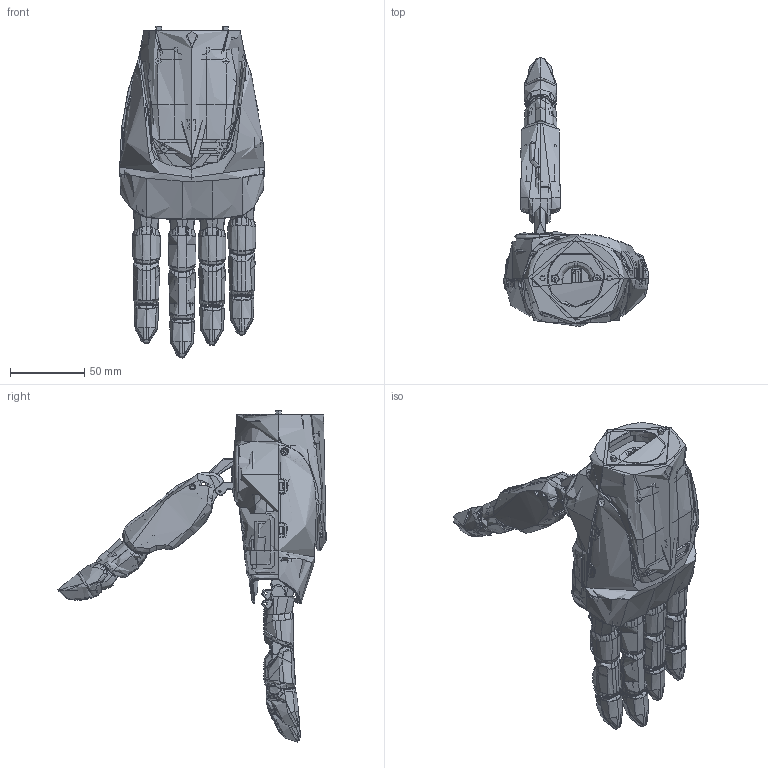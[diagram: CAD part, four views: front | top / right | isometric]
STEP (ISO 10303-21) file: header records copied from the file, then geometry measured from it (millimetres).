
FILE_DESCRIPTION (( 'STEP AP203' ), '1' );
FILE_NAME ('噩砃o12_t3_00_asm-waike(2)^o12_t3_00_asm-waike.STEP', '2025-12-01T08:17:52', ( '' ), ( '' ), 'SwSTEP 2.0', 'SolidWorks 2022', '' );
FILE_SCHEMA (( 'CONFIG_CONTROL_DESIGN' ));
Length unit declared in the file: millimetre
Products named in the file (54): 镜向O12-T3_0-17--0001^镜向_AF2000_ASM_镜向V30001_ASM_镜向o12_t3_00_asm-waike(2)_o12_t3_00_asm-waike; 镜向072300_ASM_4_1_ASM^镜向T30801_AF4_ASM_镜向_AF000_ASM_镜向o12_t3_00_asm-waike(2)_o12_t3_00_asm-waike; 镜向072300_ASM_4_1_ASM^镜向T30801_AF3_ASM_镜向_AF10001_ASM_镜向o12_t3_00_asm-waike(2)_o12_t3_00_asm-waike; 镜向O12-T3_0-03--0002^镜向_AF2000_ASM_镜向V30001_ASM_镜向o12_t3_00_asm-waike(2)_o12_t3_00_asm-waike; 镜向O12-T3_0-7-10001^镜向_AF10001_ASM_镜向o12_t3_00_asm-waike(2)_o12_t3_00_asm-waike; 镜向T30001^镜向072300_ASM_4_1_ASM_镜向T30801_AF3_ASM_镜向_AF10001_ASM_镜向o12_t3_00_asm-waike(2)_o12_t3_00_asm-waike; 镜向T308010001_ASM^镜向_AF2000_ASM_镜向V30001_ASM_镜向o12_t3_00_asm-waike(2)_o12_t3_00_asm-waike; 镜向O12-T3_0-12-_R_V40001^镜向T30003_ASM_镜向o12_t3_00_asm-waike(2)_o12_t3_00_asm-waike; 镜向o12_t3_00_asm-waike(2)^o12_t3_00_asm-waike; 镜向O12-T3_0-35--V20001^镜向_AF000_ASM_镜向o12_t3_00_asm-waike(2)_o12_t3_00_asm-waike; 镜向PCB0001^镜向o12_t3_00_asm-waike(2)_o12_t3_00_asm-waike; 镜向O12-T3_0-35--V20001^镜向_AF00002_ASM_镜向o12_t3_00_asm-waike(2)_o12_t3_00_asm-waike; 镜向O12-T3_0-45--V20001^镜向V20001_ASM_镜向o12_t3_00_asm-waike(2)_o12_t3_00_asm-waike; 镜向072300_ASM_4_ASM^镜向T308010001_ASM_镜向_AF2000_ASM_镜向V30001_ASM_镜向o12_t3_00_asm-waike(2)_o12_t3_00_asm-waike; 镜向O12-T3_0-01-0002^镜向V30001_ASM_镜向o12_t3_00_asm-waike(2)_o12_t3_00_asm-waike; 镜向T30801_AF3_ASM^镜向_AF10001_ASM_镜向o12_t3_00_asm-waike(2)_o12_t3_00_asm-waike; 镜向_AF10001_ASM^镜向o12_t3_00_asm-waike(2)_o12_t3_00_asm-waike; 镜向O12-T3_0-47-0001^镜向V20001_ASM_镜向o12_t3_00_asm-waike(2)_o12_t3_00_asm-waike; 镜向O12-T3_0-7-10001^镜向_AF000_ASM_镜向o12_t3_00_asm-waike(2)_o12_t3_00_asm-waike; 镜向O12-T3_0-8-20001^镜向_AF000_ASM_镜向o12_t3_00_asm-waike(2)_o12_t3_00_asm-waike; 镜向O12-T3_0-7-10001^镜向_AF00002_ASM_镜向o12_t3_00_asm-waike(2)_o12_t3_00_asm-waike; 镜向O12-T3_0-8-20001^镜向_AF00002_ASM_镜向o12_t3_00_asm-waike(2)_o12_t3_00_asm-waike; 镜向T30003_ASM^镜向o12_t3_00_asm-waike(2)_o12_t3_00_asm-waike; 镜向O12-T3_0-8-20001^镜向_AF10001_ASM_镜向o12_t3_00_asm-waike(2)_o12_t3_00_asm-waike; 镜向T30001^镜向072300_ASM_4_1_ASM_镜向T30801_AF4_ASM_镜向_AF000_ASM_镜向o12_t3_00_asm-waike(2)_o12_t3_00_asm-waike; 镜向O12-T3_0-03--0001^镜向_AF2000_ASM_镜向V30001_ASM_镜向o12_t3_00_asm-waike(2)_o12_t3_00_asm-waike; 镜向T30001^镜向072300_ASM_4_1_ASM_镜向T30801_AF2_ASM_镜向_AF00002_ASM_镜向o12_t3_00_asm-waike(2)_o12_t3_00_asm-waike; 镜向O12-T3_0-34--V20001^镜向_AF000_ASM_镜向o12_t3_00_asm-waike(2)_o12_t3_00_asm-waike; 镜向O12-T3_0-46--V20001^镜向V20001_ASM_镜向o12_t3_00_asm-waike(2)_o12_t3_00_asm-waike; 镜向V30001_ASM^镜向o12_t3_00_asm-waike(2)_o12_t3_00_asm-waike; 镜向O12-T3_0-11-V20001^镜向072300_ASM_4_ASM_镜向T308010001_ASM_镜向_AF2000_ASM_镜向V30001_ASM_镜向o12_t3_00_asm-waike(2)_o12_t3_00_asm-waike; 镜向_AF000_ASM^镜向o12_t3_00_asm-waike(2)_o12_t3_00_asm-waike; 镜向T3V20001_ASM^镜向V20001_ASM_镜向o12_t3_00_asm-waike(2)_o12_t3_00_asm-waike; 镜向V20001_ASM^镜向o12_t3_00_asm-waike(2)_o12_t3_00_asm-waike; 镜向O12-T3_0-34--V20001^镜向_AF00002_ASM_镜向o12_t3_00_asm-waike(2)_o12_t3_00_asm-waike; 镜向O12-T3_0-62-V20001^镜向o12_t3_00_asm-waike(2)_o12_t3_00_asm-waike; 镜向O12-T3_0-04-V20002^镜向T30003_ASM_镜向o12_t3_00_asm-waike(2)_o12_t3_00_asm-waike; 镜向_AF00002_ASM^镜向o12_t3_00_asm-waike(2)_o12_t3_00_asm-waike; 镜向T30002^镜向072300_ASM_4_ASM_镜向T308010001_ASM_镜向_AF2000_ASM_镜向V30001_ASM_镜向o12_t3_00_asm-waike(2)_o12_t3_00_asm-waike; 镜向T30801_AF2_ASM^镜向_AF00002_ASM_镜向o12_t3_00_asm-waike(2)_o12_t3_00_asm-waike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
Assembly tree (53 placements, depth 6):
  镜向o12_t3_00_asm-waike(2)^o12_t3_00_asm-waike
    镜向V20001_ASM^镜向o12_t3_00_asm-waike(2)_o12_t3_00_asm-waike
      镜向T3V20001_ASM^镜向V20001_ASM_镜向o12_t3_00_asm-waike(2)_o12_t3_00_asm-waike
        镜向T30001^镜向T3V20001_ASM_镜向V20001_ASM_镜向o12_t3_00_asm-waike(2)_o12_t3_00_asm-waike
      镜向O12-T3_0-46--V20001^镜向V20001_ASM_镜向o12_t3_00_asm-waike(2)_o12_t3_00_asm-waike
      镜向O12-T3_0-47-0001^镜向V20001_ASM_镜向o12_t3_00_asm-waike(2)_o12_t3_00_asm-waike
      镜向O12-T3_0-45--V20001^镜向V20001_ASM_镜向o12_t3_00_asm-waike(2)_o12_t3_00_asm-waike
      镜向O12-T3_0-9-10001^镜向V20001_ASM_镜向o12_t3_00_asm-waike(2)_o12_t3_00_asm-waike
      镜向O12-T3_0-10-20001^镜向V20001_ASM_镜向o12_t3_00_asm-waike(2)_o12_t3_00_asm-waike
    镜向V30001_ASM^镜向o12_t3_00_asm-waike(2)_o12_t3_00_asm-waike
      镜向_AF2000_ASM^镜向V30001_ASM_镜向o12_t3_00_asm-waike(2)_o12_t3_00_asm-waike
        镜向T308010001_ASM^镜向_AF2000_ASM_镜向V30001_ASM_镜向o12_t3_00_asm-waike(2)_o12_t3_00_asm-waike
          镜向072300_ASM_4_ASM^镜向T308010001_ASM_镜向_AF2000_ASM_镜向V30001_ASM_镜向o12_t3_00_asm-waike(2)_o12_t3_00_asm-waike
            镜向T30002^镜向072300_ASM_4_ASM_镜向T308010001_ASM_镜向_AF2000_ASM_镜向V30001_ASM_镜向o12_t3_00_asm-waike(2)_o12_t3_00_asm-waike
            镜向O12-T3_0-11-V20001^镜向072300_ASM_4_ASM_镜向T308010001_ASM_镜向_AF2000_ASM_镜向V30001_ASM_镜向o12_t3_00_asm-waike(2)_o12_t3_00_asm-waike
        镜向O12-T3_0-03--0001^镜向_AF2000_ASM_镜向V30001_ASM_镜向o12_t3_00_asm-waike(2)_o12_t3_00_asm-waike
        镜向O12-T3_0-03--0002^镜向_AF2000_ASM_镜向V30001_ASM_镜向o12_t3_00_asm-waike(2)_o12_t3_00_asm-waike
        镜向O12-T3_0-14--0001^镜向_AF2000_ASM_镜向V30001_ASM_镜向o12_t3_00_asm-waike(2)_o12_t3_00_asm-waike
        镜向O12-T3_0-17--0001^镜向_AF2000_ASM_镜向V30001_ASM_镜向o12_t3_00_asm-waike(2)_o12_t3_00_asm-waike
        镜向O12-T3_0-17-0001^镜向_AF2000_ASM_镜向V30001_ASM_镜向o12_t3_00_asm-waike(2)_o12_t3_00_asm-waike
      镜向O12-T3_0-12-V3000^镜向V30001_ASM_镜向o12_t3_00_asm-waike(2)_o12_t3_00_asm-waike
      镜向O12-T3_0-01-0002^镜向V30001_ASM_镜向o12_t3_00_asm-waike(2)_o12_t3_00_asm-waike
    镜向_AF000_ASM^镜向o12_t3_00_asm-waike(2)_o12_t3_00_asm-waike
      镜向T30801_AF4_ASM^镜向_AF000_ASM_镜向o12_t3_00_asm-waike(2)_o12_t3_00_asm-waike
        镜向072300_ASM_4_1_ASM^镜向T30801_AF4_ASM_镜向_AF000_ASM_镜向o12_t3_00_asm-waike(2)_o12_t3_00_asm-waike
          镜向T30001^镜向072300_ASM_4_1_ASM_镜向T30801_AF4_ASM_镜向_AF000_ASM_镜向o12_t3_00_asm-waike(2)_o12_t3_00_asm-waike
      镜向O12-T3_0-35--V20001^镜向_AF000_ASM_镜向o12_t3_00_asm-waike(2)_o12_t3_00_asm-waike
      镜向O12-T3_0-34--V20001^镜向_AF000_ASM_镜向o12_t3_00_asm-waike(2)_o12_t3_00_asm-waike
      镜向O12-T3_0-7-10001^镜向_AF000_ASM_镜向o12_t3_00_asm-waike(2)_o12_t3_00_asm-waike
      镜向O12-T3_0-8-20001^镜向_AF000_ASM_镜向o12_t3_00_asm-waike(2)_o12_t3_00_asm-waike
    镜向_AF00002_ASM^镜向o12_t3_00_asm-waike(2)_o12_t3_00_asm-waike
      镜向T30801_AF2_ASM^镜向_AF00002_ASM_镜向o12_t3_00_asm-waike(2)_o12_t3_00_asm-waike
        镜向072300_ASM_4_1_ASM^镜向T30801_AF2_ASM_镜向_AF00002_ASM_镜向o12_t3_00_asm-waike(2)_o12_t3_00_asm-waike
          镜向T30001^镜向072300_ASM_4_1_ASM_镜向T30801_AF2_ASM_镜向_AF00002_ASM_镜向o12_t3_00_asm-waike(2)_o12_t3_00_asm-waike
      镜向O12-T3_0-35--V20001^镜向_AF00002_ASM_镜向o12_t3_00_asm-waike(2)_o12_t3_00_asm-waike
      镜向O12-T3_0-34--V20001^镜向_AF00002_ASM_镜向o12_t3_00_asm-waike(2)_o12_t3_00_asm-waike
      镜向O12-T3_0-7-10001^镜向_AF00002_ASM_镜向o12_t3_00_asm-waike(2)_o12_t3_00_asm-waike
      镜向O12-T3_0-8-20001^镜向_AF00002_ASM_镜向o12_t3_00_asm-waike(2)_o12_t3_00_asm-waike
    镜向_AF10001_ASM^镜向o12_t3_00_asm-waike(2)_o12_t3_00_asm-waike
      镜向T30801_AF3_ASM^镜向_AF10001_ASM_镜向o12_t3_00_asm-waike(2)_o12_t3_00_asm-waike
        镜向072300_ASM_4_1_ASM^镜向T30801_AF3_ASM_镜向_AF10001_ASM_镜向o12_t3_00_asm-waike(2)_o12_t3_00_asm-waike
          镜向T30001^镜向072300_ASM_4_1_ASM_镜向T30801_AF3_ASM_镜向_AF10001_ASM_镜向o12_t3_00_asm-waike(2)_o12_t3_00_asm-waike
      镜向O12-T3_0-35--V20001^镜向_AF10001_ASM_镜向o12_t3_00_asm-waike(2)_o12_t3_00_asm-waike
      镜向O12-T3_0-34--V20001^镜向_AF10001_ASM_镜向o12_t3_00_asm-waike(2)_o12_t3_00_asm-waike
      镜向O12-T3_0-7-10001^镜向_AF10001_ASM_镜向o12_t3_00_asm-waike(2)_o12_t3_00_asm-waike
      镜向O12-T3_0-8-20001^镜向_AF10001_ASM_镜向o12_t3_00_asm-waike(2)_o12_t3_00_asm-waike
    镜向T30003_ASM^镜向o12_t3_00_asm-waike(2)_o12_t3_00_asm-waike
      镜向O12-T3_0-04-V20002^镜向T30003_ASM_镜向o12_t3_00_asm-waike(2)_o12_t3_00_asm-waike
      镜向O12-T3_0-05-V40001^镜向T30003_ASM_镜向o12_t3_00_asm-waike(2)_o12_t3_00_asm-waike
      镜向O12-T3_0-06-_R_V30001^镜向T30003_ASM_镜向o12_t3_00_asm-waike(2)_o12_t3_00_asm-waike
      镜向O12-T3_0-12-_R_V40001^镜向T30003_ASM_镜向o12_t3_00_asm-waike(2)_o12_t3_00_asm-waike
    镜向O12-T3_0-62-V20001^镜向o12_t3_00_asm-waike(2)_o12_t3_00_asm-waike
    镜向PCB0001^镜向o12_t3_00_asm-waike(2)_o12_t3_00_asm-waike
    镜向O12-T3_0-PCB0001^镜向o12_t3_00_asm-waike(2)_o12_t3_00_asm-waike
Bounding box: 97.39 x 180.81 x 223.68 mm (x, y, z)
Topology: 40 solids, 46 shells, 9554 faces, 25581 edges, 16171 vertices
Faces by surface type: bspline 4556, cylinder 2496, plane 1848, torus 409, cone 188, sphere 57
Entity records: 651586 total; most frequent: CARTESIAN_POINT 448807, ORIENTED_EDGE 51074, EDGE_CURVE 25537, DIRECTION 24886, VERTEX_POINT 16226, B_SPLINE_CURVE_WITH_KNOTS 14455, EDGE_LOOP 10049, FACE_OUTER_BOUND 9556
